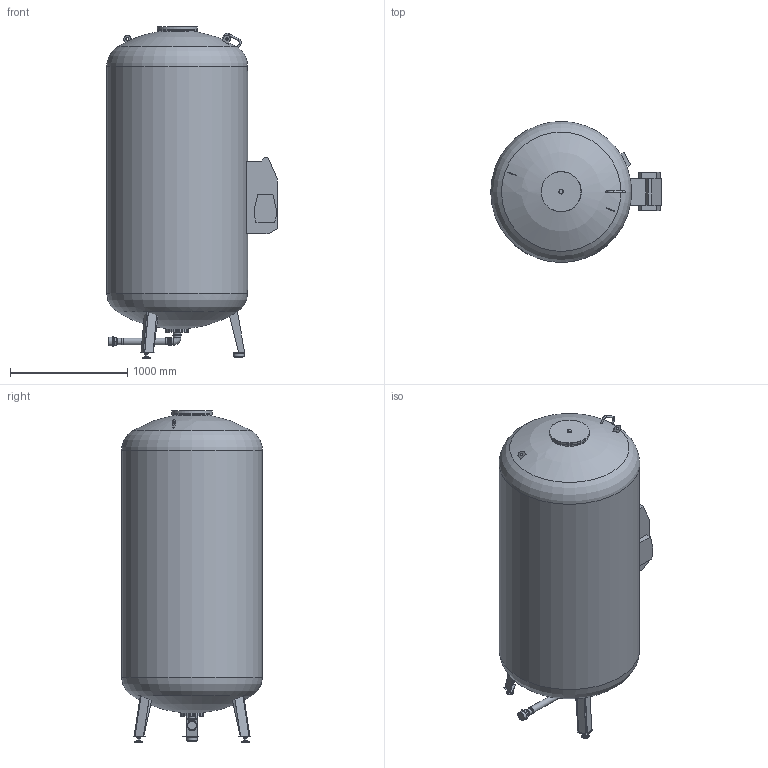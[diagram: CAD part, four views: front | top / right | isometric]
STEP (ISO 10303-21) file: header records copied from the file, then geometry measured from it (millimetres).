
FILE_DESCRIPTION(/* description */ (''),/* implementation_level */ '2;1');
FILE_NAME(/* name */ '\\DATASERVER\data\Flamco\3D-Modellen\Inventor\Flamcomat\2021_Flamcomat MK-U G4\flamcomat_mk-u_g4_2800_6.stp',/* time_stamp */ '2021-11-29T10:55:20+01:00',/* author */ ('kasius'),/* organization */ (''),/* preprocessor_version */ 'ST-DEVELOPER v17',/* originating_system */ 'Autodesk Inventor 2018',/* authorisation */ '');
FILE_SCHEMA (('AUTOMOTIVE_DESIGN { 1 0 10303 214 3 1 1 }'));
Length unit declared in the file: millimetre
Products named in the file (1): flamcomat_mk-u_g4_2800_6
Bounding box: 1453.04 x 1200 x 2830.5 mm (x, y, z)
Volume: 2693400939 mm3; surface area: 11757925.2 mm2
Topology: 5 solids, 5 shells, 289 faces, 767 edges, 521 vertices
Faces by surface type: plane 163, cone 63, cylinder 55, torus 4, bspline 2, sphere 2
Full cylindrical faces by diameter (mm): 16 x5, 20 x2, 24 x2, 33 x2, 38.75 x1, 47.67 x1, 52.97 x1, 53.97 x1, 56.07 x1, 57.97 x1, 58.97 x1, 59.97 x1, 60.3 x1, 65 x4, 68.51 x1, 71 x1, 75 x1, 90 x1, 162 x1, 198 x2, 306 x1, 342 x2, 1200 x1
Entity records: 9450 total; most frequent: CARTESIAN_POINT 1871, DIRECTION 1577, ORIENTED_EDGE 1534, EDGE_CURVE 767, AXIS2_PLACEMENT_3D 588, VERTEX_POINT 521, LINE 401, VECTOR 401
